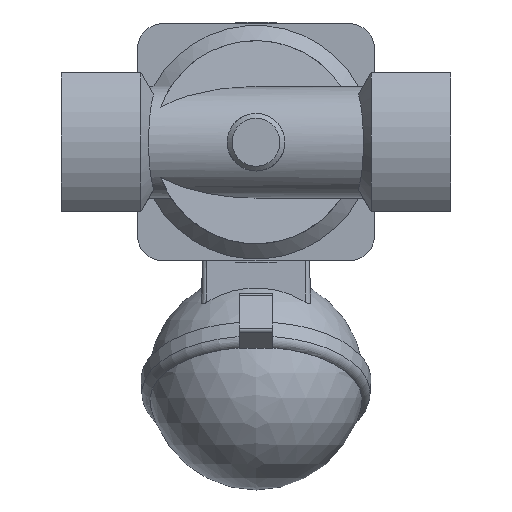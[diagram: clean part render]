
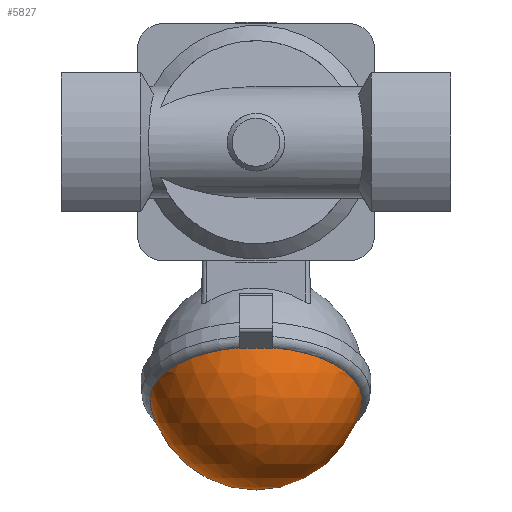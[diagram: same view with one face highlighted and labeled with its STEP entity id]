
A CAD part, front view. The second image highlights one B-rep face of the part: STEP entity #5827.
In plain terms, the highlighted spherical face has radius 32 mm.
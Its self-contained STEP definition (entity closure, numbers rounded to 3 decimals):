
#20=SPHERICAL_SURFACE('',#7397,32.);
#258=CIRCLE('',#7398,31.368);
#259=CIRCLE('',#7399,31.607);
#260=CIRCLE('',#7400,31.291);
#261=CIRCLE('',#7401,31.607);
#262=CIRCLE('',#7402,31.368);
#263=CIRCLE('',#7403,30.708);
#264=CIRCLE('',#7404,30.984);
#265=CIRCLE('',#7405,30.708);
#2574=ORIENTED_EDGE('',*,*,#3750,.F.);
#2575=ORIENTED_EDGE('',*,*,#3751,.T.);
#2576=ORIENTED_EDGE('',*,*,#3752,.T.);
#2577=ORIENTED_EDGE('',*,*,#3753,.F.);
#2578=ORIENTED_EDGE('',*,*,#3754,.F.);
#2579=ORIENTED_EDGE('',*,*,#3755,.F.);
#2580=ORIENTED_EDGE('',*,*,#3756,.T.);
#2581=ORIENTED_EDGE('',*,*,#3757,.T.);
#3750=EDGE_CURVE('',#4427,#4428,#258,.F.);
#3751=EDGE_CURVE('',#4427,#4429,#259,.F.);
#3752=EDGE_CURVE('',#4429,#4430,#260,.F.);
#3753=EDGE_CURVE('',#4431,#4430,#261,.F.);
#3754=EDGE_CURVE('',#4432,#4431,#262,.F.);
#3755=EDGE_CURVE('',#4433,#4432,#263,.F.);
#3756=EDGE_CURVE('',#4433,#4434,#264,.F.);
#3757=EDGE_CURVE('',#4434,#4428,#265,.F.);
#4427=VERTEX_POINT('',#10814);
#4428=VERTEX_POINT('',#10815);
#4429=VERTEX_POINT('',#10817);
#4430=VERTEX_POINT('',#10819);
#4431=VERTEX_POINT('',#10821);
#4432=VERTEX_POINT('',#10823);
#4433=VERTEX_POINT('',#10825);
#4434=VERTEX_POINT('',#10827);
#4907=EDGE_LOOP('',(#2574,#2575,#2576,#2577,#2578,#2579,#2580,#2581));
#5349=FACE_BOUND('',#4907,.T.);
#5827=ADVANCED_FACE('',(#5349),#20,.T.);
#7397=AXIS2_PLACEMENT_3D('',#10812,#8740,#8741);
#7398=AXIS2_PLACEMENT_3D('',#10813,#8742,#8743);
#7399=AXIS2_PLACEMENT_3D('',#10816,#8744,#8745);
#7400=AXIS2_PLACEMENT_3D('',#10818,#8746,#8747);
#7401=AXIS2_PLACEMENT_3D('',#10820,#8748,#8749);
#7402=AXIS2_PLACEMENT_3D('',#10822,#8750,#8751);
#7403=AXIS2_PLACEMENT_3D('',#10824,#8752,#8753);
#7404=AXIS2_PLACEMENT_3D('',#10826,#8754,#8755);
#7405=AXIS2_PLACEMENT_3D('',#10828,#8756,#8757);
#8740=DIRECTION('',(1.,0.,0.));
#8741=DIRECTION('',(0.,-1.,0.));
#8742=DIRECTION('',(-0.866,-0.5,0.));
#8743=DIRECTION('',(0.5,-0.866,0.));
#8744=DIRECTION('',(0.,0.,1.));
#8745=DIRECTION('',(1.,0.,0.));
#8746=DIRECTION('',(0.866,0.5,0.));
#8747=DIRECTION('',(-0.5,0.866,0.));
#8748=DIRECTION('',(0.,0.,1.));
#8749=DIRECTION('',(1.,0.,0.));
#8750=DIRECTION('',(-0.866,-0.5,0.));
#8751=DIRECTION('',(0.5,-0.866,0.));
#8752=DIRECTION('',(0.,0.,1.));
#8753=DIRECTION('',(1.,0.,0.));
#8754=DIRECTION('',(0.866,0.5,0.));
#8755=DIRECTION('',(-0.5,0.866,0.));
#8756=DIRECTION('',(0.,0.,1.));
#8757=DIRECTION('',(1.,0.,0.));
#10812=CARTESIAN_POINT('',(-70.7,0.,0.));
#10813=CARTESIAN_POINT('',(-76.183,-3.165,0.));
#10814=CARTESIAN_POINT('',(-60.699,-29.983,-5.));
#10815=CARTESIAN_POINT('',(-91.207,22.858,-9.));
#10816=CARTESIAN_POINT('',(-70.7,0.,-5.));
#10817=CARTESIAN_POINT('',(-61.058,-30.1,-5.));
#10818=CARTESIAN_POINT('',(-76.502,-3.35,0.));
#10819=CARTESIAN_POINT('',(-61.058,-30.1,5.));
#10820=CARTESIAN_POINT('',(-70.7,0.,5.));
#10821=CARTESIAN_POINT('',(-60.699,-29.983,5.));
#10822=CARTESIAN_POINT('',(-76.183,-3.165,0.));
#10823=CARTESIAN_POINT('',(-91.207,22.858,9.));
#10824=CARTESIAN_POINT('',(-70.7,0.,9.));
#10825=CARTESIAN_POINT('',(-92.452,21.676,9.));
#10826=CARTESIAN_POINT('',(-77.628,-4.,0.));
#10827=CARTESIAN_POINT('',(-92.452,21.676,-9.));
#10828=CARTESIAN_POINT('',(-70.7,0.,-9.));
